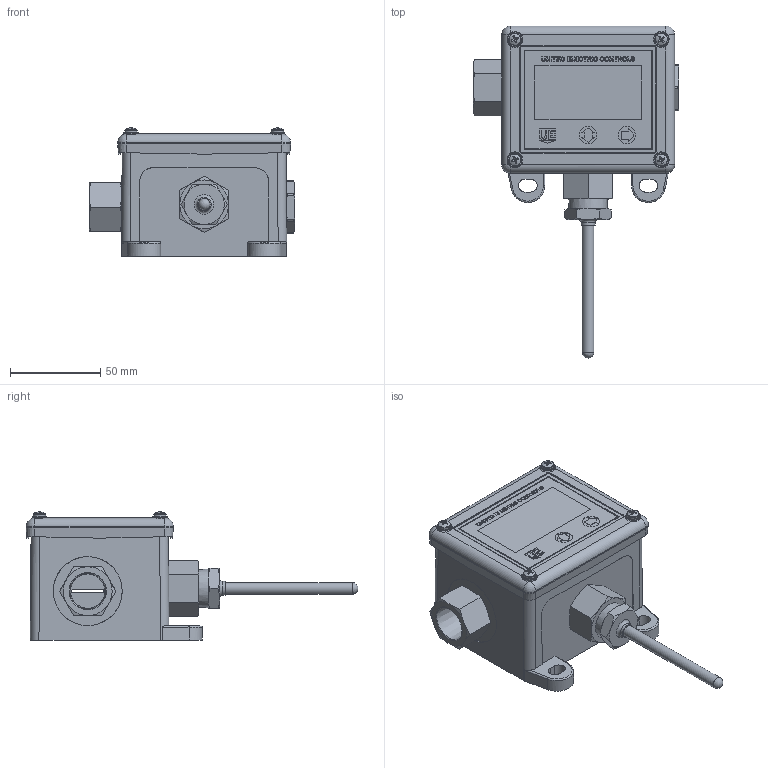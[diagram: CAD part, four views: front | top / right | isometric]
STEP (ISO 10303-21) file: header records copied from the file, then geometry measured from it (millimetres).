
FILE_DESCRIPTION (( 'STEP AP214' ), '1' );
FILE_NAME ('1GSWLLTL1.STEP', '2025-03-05T19:50:03', ( '' ), ( '' ), 'SwSTEP 2.0', 'SolidWorks 2023', '' );
FILE_SCHEMA (( 'AUTOMOTIVE_DESIGN' ));
Length unit declared in the file: inch
Products named in the file (1): 1GSWLLTL1
Bounding box: 113.49 x 183.5 x 70.85 mm (x, y, z)
Surface area: 51431.4 mm2 (no closed solid volume)
Topology: 0 solids, 14 shells, 455 faces, 1445 edges, 976 vertices
Faces by surface type: plane 265, bspline 75, cylinder 55, cone 42, torus 9, sphere 9
Full cylindrical faces by diameter (mm): 6.426 x1, 6.858 x4, 7.722 x1, 7.899 x4, 9.652 x2, 24.892 x1
Entity records: 21594 total; most frequent: CARTESIAN_POINT 10060, ORIENTED_EDGE 2306, DIRECTION 2032, EDGE_CURVE 1411, VERTEX_POINT 968, LINE 866, VECTOR 866, AXIS2_PLACEMENT_3D 583
